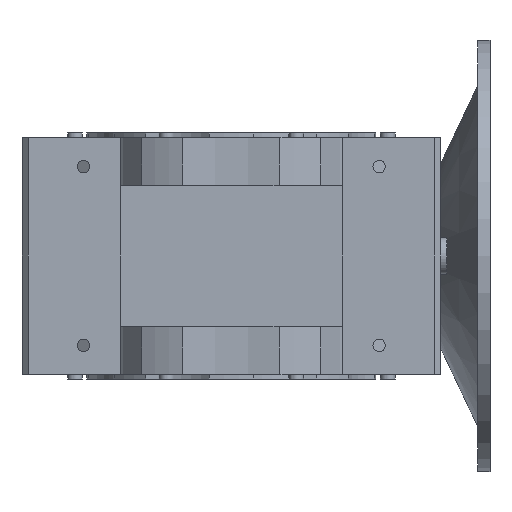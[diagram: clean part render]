
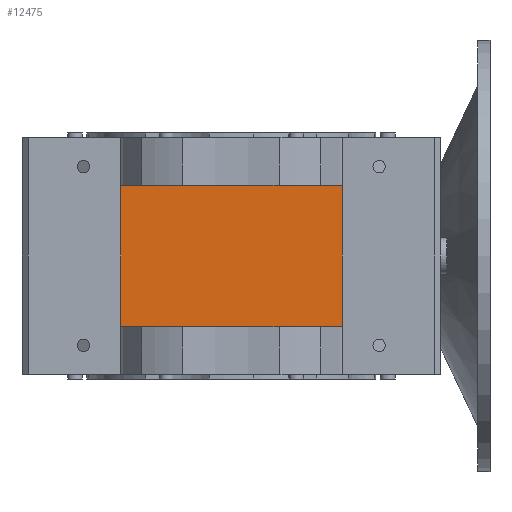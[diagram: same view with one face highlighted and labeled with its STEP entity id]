
A CAD part, front view. The second image highlights one B-rep face of the part: STEP entity #12475.
In plain terms, the highlighted planar face has unit normal (0, -1, 0).
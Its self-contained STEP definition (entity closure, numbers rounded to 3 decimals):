
#43 = CARTESIAN_POINT ( 'NONE',  ( -90., -165., -57.5 ) ) ;
#515 = EDGE_CURVE ( 'NONE', #11324, #1293, #14304, .T. ) ;
#804 = CARTESIAN_POINT ( 'NONE',  ( 0., -165., 92.5 ) ) ;
#1122 = ORIENTED_EDGE ( 'NONE', *, *, #13072, .F. ) ;
#1293 = VERTEX_POINT ( 'NONE', #3852 ) ;
#1745 = EDGE_LOOP ( 'NONE', ( #1122, #16342, #7893, #16525 ) ) ;
#1896 = DIRECTION ( 'NONE',  ( -1., 0., 0. ) ) ;
#3207 = PLANE ( 'NONE',  #21169 ) ;
#3852 = CARTESIAN_POINT ( 'NONE',  ( 90., -165., 57.5 ) ) ;
#4338 = CARTESIAN_POINT ( 'NONE',  ( -397.514, -165., -57.5 ) ) ;
#4518 = DIRECTION ( 'NONE',  ( 1., 0., 0. ) ) ;
#5406 = CARTESIAN_POINT ( 'NONE',  ( -90., -165., 57.5 ) ) ;
#6793 = LINE ( 'NONE', #4338, #10434 ) ;
#6977 = CARTESIAN_POINT ( 'NONE',  ( 0., -165., 57.5 ) ) ;
#7893 = ORIENTED_EDGE ( 'NONE', *, *, #515, .F. ) ;
#8943 = LINE ( 'NONE', #20437, #16093 ) ;
#10434 = VECTOR ( 'NONE', #1896, 1000. ) ;
#10462 = VERTEX_POINT ( 'NONE', #13931 ) ;
#10974 = EDGE_CURVE ( 'NONE', #11324, #22915, #19292, .T. ) ;
#11324 = VERTEX_POINT ( 'NONE', #5406 ) ;
#11636 = VECTOR ( 'NONE', #4518, 1000. ) ;
#12475 = ADVANCED_FACE ( 'NONE', ( #22367 ), #3207, .F. ) ;
#13072 = EDGE_CURVE ( 'NONE', #10462, #22915, #6793, .T. ) ;
#13270 = EDGE_CURVE ( 'NONE', #1293, #10462, #8943, .T. ) ;
#13873 = VECTOR ( 'NONE', #14505, 1000. ) ;
#13931 = CARTESIAN_POINT ( 'NONE',  ( 90., -165., -57.5 ) ) ;
#14304 = LINE ( 'NONE', #6977, #11636 ) ;
#14505 = DIRECTION ( 'NONE',  ( 0., 0., -1. ) ) ;
#16093 = VECTOR ( 'NONE', #18055, 1000. ) ;
#16342 = ORIENTED_EDGE ( 'NONE', *, *, #13270, .F. ) ;
#16525 = ORIENTED_EDGE ( 'NONE', *, *, #10974, .T. ) ;
#16916 = CARTESIAN_POINT ( 'NONE',  ( -90., -165., 92.5 ) ) ;
#18055 = DIRECTION ( 'NONE',  ( 0., 0., -1. ) ) ;
#19292 = LINE ( 'NONE', #16916, #13873 ) ;
#19637 = DIRECTION ( 'NONE',  ( 0., 0., 1. ) ) ;
#20437 = CARTESIAN_POINT ( 'NONE',  ( 90., -165., 92.5 ) ) ;
#21169 = AXIS2_PLACEMENT_3D ( 'NONE', #804, #22013, #19637 ) ;
#22013 = DIRECTION ( 'NONE',  ( 0., 1., 0. ) ) ;
#22367 = FACE_OUTER_BOUND ( 'NONE', #1745, .T. ) ;
#22915 = VERTEX_POINT ( 'NONE', #43 ) ;
